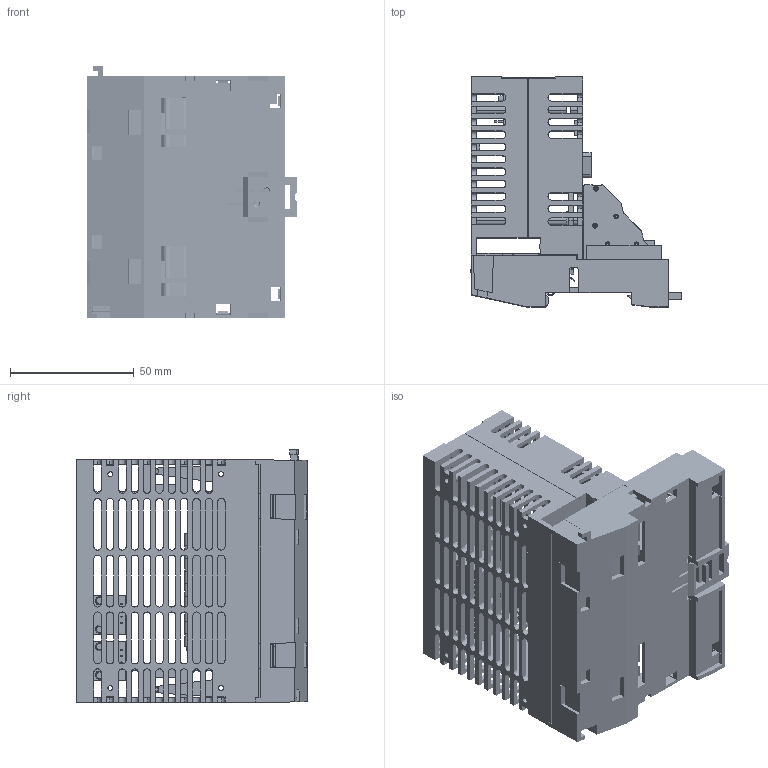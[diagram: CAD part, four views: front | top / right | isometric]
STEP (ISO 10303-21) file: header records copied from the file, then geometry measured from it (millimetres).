
FILE_DESCRIPTION (( 'STEP AP214' ), '1' );
FILE_NAME ('DEE_021.STEP', '2018-11-14T10:28:39', ( 'Windows-Benutzer' ), ( '' ), 'SwSTEP 2.0', 'SolidWorks 2017', '' );
FILE_SCHEMA (( 'AUTOMOTIVE_DESIGN' ));
Length unit declared in the file: millimetre
Products named in the file (17): 4060212240 RJ45 Buchse waagerecht 094555111011; 95800_V05_101001_step f〉 Kunde; 4080217014 14pol Messerleiste 09185147324; Dias Hebel links; 96000_V20_101001_step f〉 Kunde; Dias Hebel rechts; 3030201112-1_Front DEE_021; Dias Kontaktfeder; DEE_021; xxxxxxxxxx_zfk3ds_1.5-5.08_1; 4110251142 4pol. Grundgehäsue GMSTBVA2,5 1766686; Schnapper DIAS; 4060211048_6pol. Stiftleiste 2reih.ger. S2L3.5-6-180G 2.6SN OR_1891650000; Dias Front; Dias Rückwand; Folie_DIAS_005825; Dias Sockel
Assembly tree (27 placements, depth 3):
  DEE_021
    Dias Sockel
    95800_V05_101001_step f〉 Kunde
      4080217014 14pol Messerleiste 09185147324  x2
      xxxxxxxxxx_zfk3ds_1.5-5.08_1  x9
    96000_V20_101001_step f〉 Kunde
      4060212240 RJ45 Buchse waagerecht 094555111011  x2
    Dias Front
    Dias Rückwand
    3030201112-1_Front DEE_021
    Folie_DIAS_005825
    4060211048_6pol. Stiftleiste 2reih.ger. S2L3.5-6-180G 2.6SN OR_1891650000
    4110251142 4pol. Grundgehäsue GMSTBVA2,5 1766686
    Dias Hebel rechts
    Dias Hebel links
    Schnapper DIAS
    Dias Kontaktfeder  x2
Bounding box: 85.06 x 93.1 x 102.1 mm (x, y, z)
Volume: 114362.5 mm3; surface area: 132792.4 mm2
Topology: 25 solids, 25 shells, 4804 faces, 12185 edges, 7737 vertices
Faces by surface type: plane 2601, cylinder 969, bspline 874, cone 344, sphere 16
Entity records: 85945 total; most frequent: CARTESIAN_POINT 16770, ORIENTED_EDGE 13422, DIRECTION 12735, EDGE_CURVE 6711, VECTOR 5011, LINE 5011, VERTEX_POINT 4375, AXIS2_PLACEMENT_3D 3862
